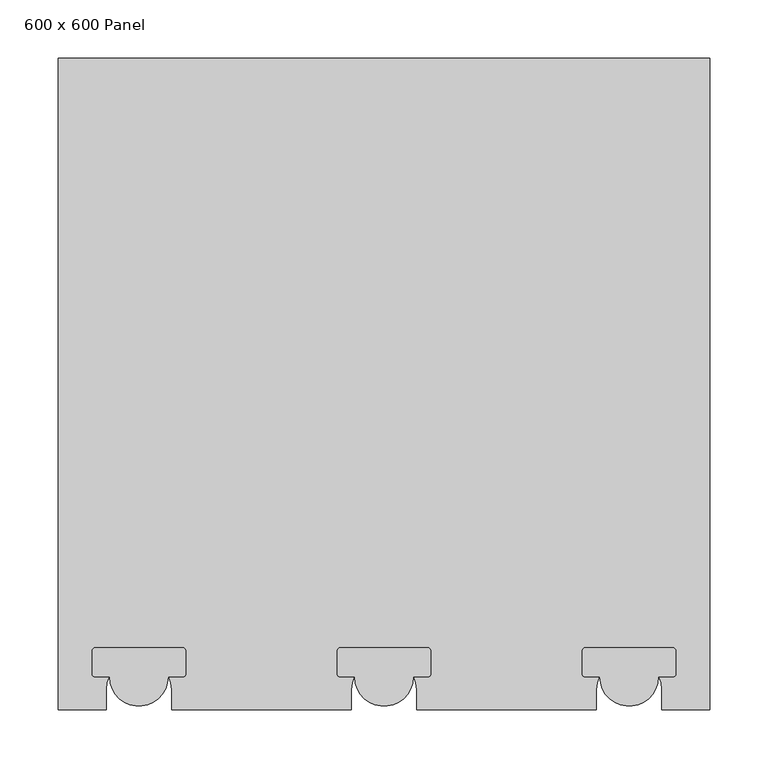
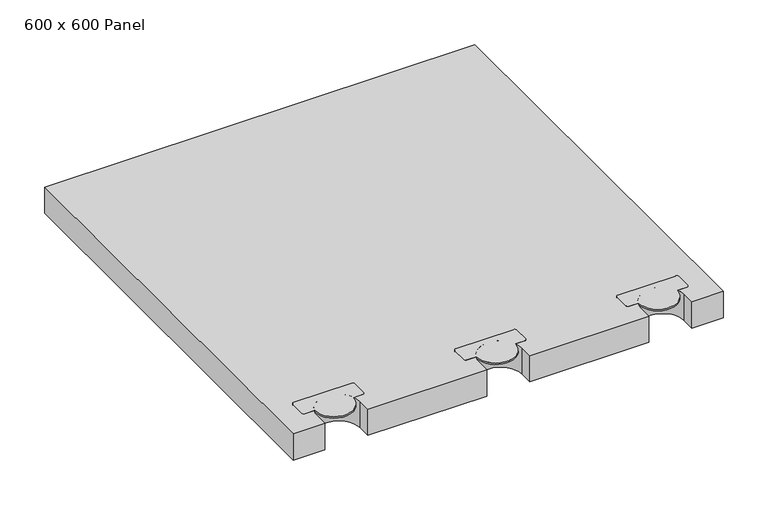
"""IFC4 building model written with IfcOpenShell, lengths in millimetres: proxy geometry, 600 x 600 Fyreshield : 600 x 600 Panel."""

from ifc_helpers import new_model, si_unit, point, frame, frame_2d, origin, place, context, project, spatial, polyline, circle_curve, trimmed, segment, composite_curve, outline, extrude, source, transform, mapped, element, save


def proxy_600_x_600_panel_7c6bfa36(model_context):
    return source(origin(), model_context, "Body", "SweptSolid", [
        extrude(outline(composite_curve([segment(trimmed(circle_curve(frame_2d((210.0, -251.0)), 25.0), [point((235.0, -251.0))], [point((185.0, -251.0))], False, "CARTESIAN"), True, "CONTINUOUS"), segment(polyline([(185.0, -251.0), (172.5, -251.0)]), True, "CONTINUOUS"), segment(trimmed(circle_curve(frame_2d((172.5, -248.5)), 2.5), [point((172.5, -251.0))], [point((170.0, -248.5))], False, "CARTESIAN"), True, "CONTINUOUS"), segment(polyline([(170.0, -248.5), (170.0, -228.5)]), True, "CONTINUOUS"), segment(trimmed(circle_curve(frame_2d((172.5, -228.5)), 2.5), [point((170.0, -228.5))], [point((172.5, -226.0))], False, "CARTESIAN"), True, "CONTINUOUS"), segment(polyline([(172.5, -226.0), (210.0, -226.0), (247.5, -226.0)]), True, "CONTINUOUS"), segment(trimmed(circle_curve(frame_2d((247.5, -228.5)), 2.5), [point((247.5, -226.0))], [point((250.0, -228.5))], False, "CARTESIAN"), True, "CONTINUOUS"), segment(polyline([(250.0, -228.5), (250.0, -248.5)]), True, "CONTINUOUS"), segment(trimmed(circle_curve(frame_2d((247.5, -248.5)), 2.5), [point((250.0, -248.5))], [point((247.5, -251.0))], False, "CARTESIAN"), True, "CONTINUOUS"), segment(polyline([(247.5, -251.0), (235.0, -251.0)]), True, "CONTINUOUS")], self_intersect=False)), frame((0.0, 0.0, -73.0), z_axis=(0.0, 0.0, 1.0), x_axis=(1.0, 0.0, 0.0)), (0.0, 0.0, 1.0), 2.0),
        extrude(outline(composite_curve([segment(trimmed(circle_curve(frame_2d((0.0, -251.0)), 25.0), [point((25.0, -251.0))], [point((-25.0, -251.0))], False, "CARTESIAN"), True, "CONTINUOUS"), segment(polyline([(-25.0, -251.0), (-37.5, -251.0)]), True, "CONTINUOUS"), segment(trimmed(circle_curve(frame_2d((-37.5, -248.5)), 2.5), [point((-37.5, -251.0))], [point((-40.0, -248.5))], False, "CARTESIAN"), True, "CONTINUOUS"), segment(polyline([(-40.0, -248.5), (-40.0, -228.5)]), True, "CONTINUOUS"), segment(trimmed(circle_curve(frame_2d((-37.5, -228.5)), 2.5), [point((-40.0, -228.5))], [point((-37.5, -226.0))], False, "CARTESIAN"), True, "CONTINUOUS"), segment(polyline([(-37.5, -226.0), (0.0, -226.0), (37.5, -226.0)]), True, "CONTINUOUS"), segment(trimmed(circle_curve(frame_2d((37.5, -228.5)), 2.5), [point((37.5, -226.0))], [point((40.0, -228.5))], False, "CARTESIAN"), True, "CONTINUOUS"), segment(polyline([(40.0, -228.5), (40.0, -248.5)]), True, "CONTINUOUS"), segment(trimmed(circle_curve(frame_2d((37.5, -248.5)), 2.5), [point((40.0, -248.5))], [point((37.5, -251.0))], False, "CARTESIAN"), True, "CONTINUOUS"), segment(polyline([(37.5, -251.0), (25.0, -251.0)]), True, "CONTINUOUS")], self_intersect=False)), frame((0.0, 0.0, -73.0), z_axis=(0.0, 0.0, 1.0), x_axis=(1.0, 0.0, 0.0)), (0.0, 0.0, 1.0), 2.0),
        extrude(outline(composite_curve([segment(trimmed(circle_curve(frame_2d((-210.0, -251.0)), 25.0), [point((-185.0, -251.0))], [point((-235.0, -251.0))], False, "CARTESIAN"), True, "CONTINUOUS"), segment(polyline([(-235.0, -251.0), (-247.5, -251.0)]), True, "CONTINUOUS"), segment(trimmed(circle_curve(frame_2d((-247.5, -248.5)), 2.5), [point((-247.5, -251.0))], [point((-250.0, -248.5))], False, "CARTESIAN"), True, "CONTINUOUS"), segment(polyline([(-250.0, -248.5), (-250.0, -228.5)]), True, "CONTINUOUS"), segment(trimmed(circle_curve(frame_2d((-247.5, -228.5)), 2.5), [point((-250.0, -228.5))], [point((-247.5, -226.0))], False, "CARTESIAN"), True, "CONTINUOUS"), segment(polyline([(-247.5, -226.0), (-210.0, -226.0), (-172.5, -226.0)]), True, "CONTINUOUS"), segment(trimmed(circle_curve(frame_2d((-172.5, -228.5)), 2.5), [point((-172.5, -226.0))], [point((-170.0, -228.5))], False, "CARTESIAN"), True, "CONTINUOUS"), segment(polyline([(-170.0, -228.5), (-170.0, -248.5)]), True, "CONTINUOUS"), segment(trimmed(circle_curve(frame_2d((-172.5, -248.5)), 2.5), [point((-170.0, -248.5))], [point((-172.5, -251.0))], False, "CARTESIAN"), True, "CONTINUOUS"), segment(polyline([(-172.5, -251.0), (-185.0, -251.0)]), True, "CONTINUOUS")], self_intersect=False)), frame((0.0, 0.0, -73.0), z_axis=(0.0, 0.0, 1.0), x_axis=(1.0, 0.0, 0.0)), (0.0, 0.0, 1.0), 2.0),
        extrude(outline(composite_curve([segment(polyline([(279.0, 279.0), (279.0, -279.0), (238.0, -279.0), (238.0, -262.0)]), True, "CONTINUOUS"), segment(trimmed(circle_curve(frame_2d((210.0, -262.0)), 28.0), [point((238.0, -262.0))], [point((182.0, -262.0))], True, "CARTESIAN"), True, "CONTINUOUS"), segment(polyline([(182.0, -262.0), (182.0, -279.0), (28.0, -279.0), (28.0, -262.0)]), True, "CONTINUOUS"), segment(trimmed(circle_curve(frame_2d((0.0, -262.0)), 28.0), [point((28.0, -262.0))], [point((-28.0, -262.0))], True, "CARTESIAN"), True, "CONTINUOUS"), segment(polyline([(-28.0, -262.0), (-28.0, -279.0), (-182.0, -279.0), (-182.0, -262.0)]), True, "CONTINUOUS"), segment(trimmed(circle_curve(frame_2d((-210.0, -262.0)), 28.0), [point((-182.0, -262.0))], [point((-238.0, -262.0))], True, "CARTESIAN"), True, "CONTINUOUS"), segment(polyline([(-238.0, -262.0), (-238.0, -279.0), (-279.0, -279.0), (-279.0, 279.0), (279.0, 279.0)]), True, "CONTINUOUS")], self_intersect=False)), frame((0.0, 0.0, -107.0), z_axis=(0.0, 0.0, 1.0), x_axis=(1.0, 0.0, 0.0)), (0.0, 0.0, 1.0), 36.0),
    ])


if __name__ == "__main__":
    model = new_model("IFC4")
    model_context = context("Model", 3, world=origin())
    ifc_project = project(units=[si_unit("LENGTHUNIT", "METRE", prefix="MILLI")], contexts=[model_context])
    site = spatial("IfcSite", under=ifc_project)
    building = spatial("IfcBuilding", under=site)
    placement = place(None, origin())
    proxy_600_x_600_panel_shape = proxy_600_x_600_panel_7c6bfa36(model_context)
    element("IfcBuildingElementProxy", 1, Name="600 x 600 Fyreshield : 600 x 600 Panel", ObjectType="600 x 600 Fyreshield : 600 x 600 Panel", at=placement, inside=building, context=model_context, shape_type="MappedRepresentation", body=[
        mapped(proxy_600_x_600_panel_shape, transform((0.0, 0.0, 0.0), x_axis=(1.0, 0.0, 0.0), y_axis=(0.0, 1.0, 0.0), z_axis=(0.0, 0.0, 1.0))),
    ])
    save(model, "model.ifc")
